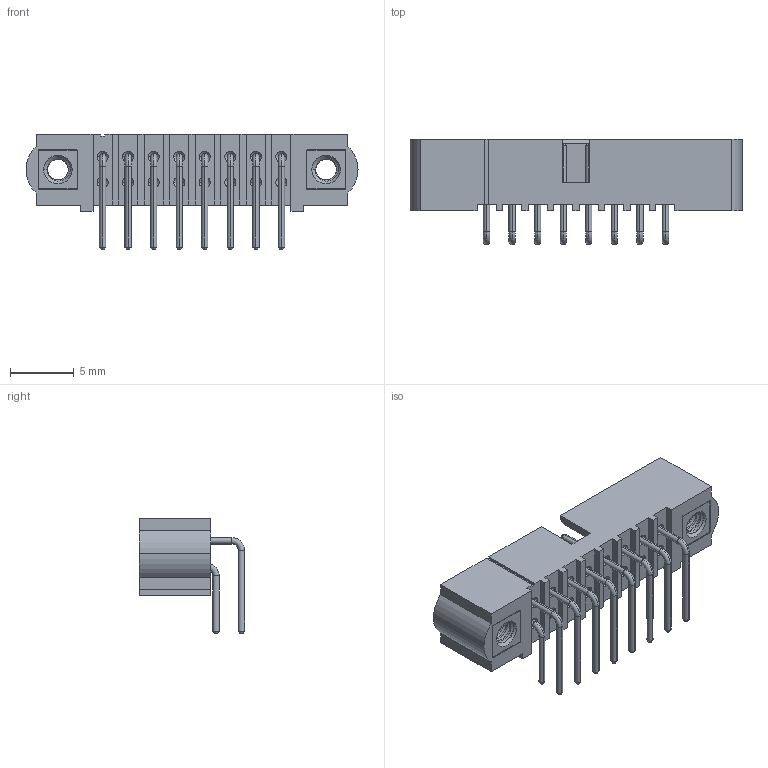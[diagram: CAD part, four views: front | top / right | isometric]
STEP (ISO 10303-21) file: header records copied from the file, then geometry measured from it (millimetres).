
FILE_DESCRIPTION(('STEP AP242'),'1');
FILE_NAME('m80-5301642.stp','2024-04-16T06:24:55',('TraceParts'),('TraceParts S.A.'),'Spatial InterOp 3D',' ',' ');
FILE_SCHEMA(('AP242_MANAGED_MODEL_BASED_3D_ENGINEERING_MIM_LF {1 0 10303 442 1 1 4}'));
Length unit declared in the file: millimetre
Products named in the file (1): m80-5301642_1
Bounding box: 26 x 8.25 x 9.05 mm (x, y, z)
Volume: 494.9 mm3; surface area: 1420.1 mm2
Topology: 19 solids, 19 shells, 707 faces, 1625 edges, 980 vertices
Faces by surface type: plane 275, cylinder 198, cone 114, bspline 88, torus 32
Entity records: 37232 total; most frequent: CARTESIAN_POINT 12069, DIRECTION 3303, ORIENTED_EDGE 3250, STYLED_ITEM 1782, PRESENTATION_STYLE_ASSIGNMENT 1782, COLOUR_RGB 1782, EDGE_CURVE 1625, CURVE_STYLE 1619
